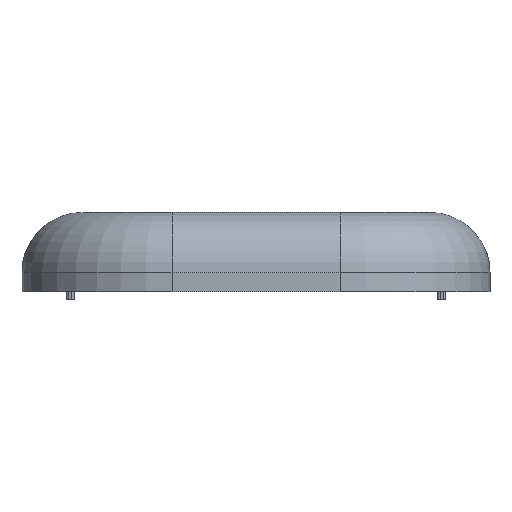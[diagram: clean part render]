
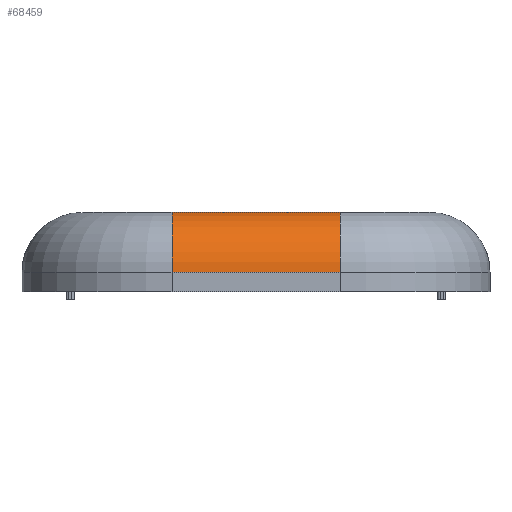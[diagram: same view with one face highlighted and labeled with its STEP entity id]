
A CAD part, front view. The second image highlights one B-rep face of the part: STEP entity #68459.
In plain terms, the highlighted cylindrical face has radius 10 mm (diameter 20 mm), a partial arc.
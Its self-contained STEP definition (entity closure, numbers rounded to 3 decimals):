
#21897 = PLANE('',#21898);
#21898 = AXIS2_PLACEMENT_3D('',#21899,#21900,#21901);
#21899 = CARTESIAN_POINT('',(0.,0.,0.));
#21900 = DIRECTION('',(0.,0.,-1.));
#21901 = DIRECTION('',(-1.,0.,0.));
#49367 = VERTEX_POINT('',#49368);
#49368 = CARTESIAN_POINT('',(14.,-65.,0.));
#49383 = TOROIDAL_SURFACE('',#49384,15.,10.);
#49384 = AXIS2_PLACEMENT_3D('',#49385,#49386,#49387);
#49385 = CARTESIAN_POINT('',(14.,-50.,-10.));
#49386 = DIRECTION('',(0.,0.,-1.));
#49387 = DIRECTION('',(-1.,0.,0.));
#49395 = EDGE_CURVE('',#49367,#49396,#49398,.T.);
#49396 = VERTEX_POINT('',#49397);
#49397 = CARTESIAN_POINT('',(-14.,-65.,0.));
#49398 = SURFACE_CURVE('',#49399,(#49403,#49410),.PCURVE_S1.);
#49399 = LINE('',#49400,#49401);
#49400 = CARTESIAN_POINT('',(7.,-65.,0.));
#49401 = VECTOR('',#49402,1.);
#49402 = DIRECTION('',(-1.,0.,0.));
#49403 = PCURVE('',#21897,#49404);
#49404 = DEFINITIONAL_REPRESENTATION('',(#49405),#49409);
#49405 = LINE('',#49406,#49407);
#49406 = CARTESIAN_POINT('',(-7.,-65.));
#49407 = VECTOR('',#49408,1.);
#49408 = DIRECTION('',(1.,0.));
#49409 = ( GEOMETRIC_REPRESENTATION_CONTEXT(2) 
PARAMETRIC_REPRESENTATION_CONTEXT() REPRESENTATION_CONTEXT('2D SPACE',''
  ) );
#49410 = PCURVE('',#49411,#49416);
#49411 = CYLINDRICAL_SURFACE('',#49412,10.);
#49412 = AXIS2_PLACEMENT_3D('',#49413,#49414,#49415);
#49413 = CARTESIAN_POINT('',(7.,-65.,-10.));
#49414 = DIRECTION('',(-1.,0.,0.));
#49415 = DIRECTION('',(0.,-0.707,0.707));
#49416 = DEFINITIONAL_REPRESENTATION('',(#49417),#49421);
#49417 = LINE('',#49418,#49419);
#49418 = CARTESIAN_POINT('',(7.069,0.));
#49419 = VECTOR('',#49420,1.);
#49420 = DIRECTION('',(0.,1.));
#49421 = ( GEOMETRIC_REPRESENTATION_CONTEXT(2) 
PARAMETRIC_REPRESENTATION_CONTEXT() REPRESENTATION_CONTEXT('2D SPACE',''
  ) );
#49440 = TOROIDAL_SURFACE('',#49441,15.,10.);
#49441 = AXIS2_PLACEMENT_3D('',#49442,#49443,#49444);
#49442 = CARTESIAN_POINT('',(-14.,-50.,-10.));
#49443 = DIRECTION('',(0.,0.,-1.));
#49444 = DIRECTION('',(-1.,0.,0.));
#68407 = EDGE_CURVE('',#49367,#68408,#68410,.T.);
#68408 = VERTEX_POINT('',#68409);
#68409 = CARTESIAN_POINT('',(14.,-75.,-10.));
#68410 = SURFACE_CURVE('',#68411,(#68416,#68423),.PCURVE_S1.);
#68411 = CIRCLE('',#68412,10.);
#68412 = AXIS2_PLACEMENT_3D('',#68413,#68414,#68415);
#68413 = CARTESIAN_POINT('',(14.,-65.,-10.));
#68414 = DIRECTION('',(1.,0.,-0.));
#68415 = DIRECTION('',(0.,0.,1.));
#68416 = PCURVE('',#49383,#68417);
#68417 = DEFINITIONAL_REPRESENTATION('',(#68418),#68422);
#68418 = LINE('',#68419,#68420);
#68419 = CARTESIAN_POINT('',(4.712,4.712));
#68420 = VECTOR('',#68421,1.);
#68421 = DIRECTION('',(0.,1.));
#68422 = ( GEOMETRIC_REPRESENTATION_CONTEXT(2) 
PARAMETRIC_REPRESENTATION_CONTEXT() REPRESENTATION_CONTEXT('2D SPACE',''
  ) );
#68423 = PCURVE('',#49411,#68424);
#68424 = DEFINITIONAL_REPRESENTATION('',(#68425),#68429);
#68425 = LINE('',#68426,#68427);
#68426 = CARTESIAN_POINT('',(7.069,-7.));
#68427 = VECTOR('',#68428,1.);
#68428 = DIRECTION('',(-1.,0.));
#68429 = ( GEOMETRIC_REPRESENTATION_CONTEXT(2) 
PARAMETRIC_REPRESENTATION_CONTEXT() REPRESENTATION_CONTEXT('2D SPACE',''
  ) );
#68459 = ADVANCED_FACE('',(#68460),#49411,.T.);
#68460 = FACE_BOUND('',#68461,.T.);
#68461 = EDGE_LOOP('',(#68462,#68486,#68512,#68513));
#68462 = ORIENTED_EDGE('',*,*,#68463,.T.);
#68463 = EDGE_CURVE('',#49396,#68464,#68466,.T.);
#68464 = VERTEX_POINT('',#68465);
#68465 = CARTESIAN_POINT('',(-14.,-75.,-10.));
#68466 = SURFACE_CURVE('',#68467,(#68472,#68479),.PCURVE_S1.);
#68467 = CIRCLE('',#68468,10.);
#68468 = AXIS2_PLACEMENT_3D('',#68469,#68470,#68471);
#68469 = CARTESIAN_POINT('',(-14.,-65.,-10.));
#68470 = DIRECTION('',(1.,0.,0.));
#68471 = DIRECTION('',(0.,0.,1.));
#68472 = PCURVE('',#49411,#68473);
#68473 = DEFINITIONAL_REPRESENTATION('',(#68474),#68478);
#68474 = LINE('',#68475,#68476);
#68475 = CARTESIAN_POINT('',(7.069,21.));
#68476 = VECTOR('',#68477,1.);
#68477 = DIRECTION('',(-1.,0.));
#68478 = ( GEOMETRIC_REPRESENTATION_CONTEXT(2) 
PARAMETRIC_REPRESENTATION_CONTEXT() REPRESENTATION_CONTEXT('2D SPACE',''
  ) );
#68479 = PCURVE('',#49440,#68480);
#68480 = DEFINITIONAL_REPRESENTATION('',(#68481),#68485);
#68481 = LINE('',#68482,#68483);
#68482 = CARTESIAN_POINT('',(4.712,4.712));
#68483 = VECTOR('',#68484,1.);
#68484 = DIRECTION('',(0.,1.));
#68485 = ( GEOMETRIC_REPRESENTATION_CONTEXT(2) 
PARAMETRIC_REPRESENTATION_CONTEXT() REPRESENTATION_CONTEXT('2D SPACE',''
  ) );
#68486 = ORIENTED_EDGE('',*,*,#68487,.T.);
#68487 = EDGE_CURVE('',#68464,#68408,#68488,.T.);
#68488 = SURFACE_CURVE('',#68489,(#68493,#68500),.PCURVE_S1.);
#68489 = LINE('',#68490,#68491);
#68490 = CARTESIAN_POINT('',(7.,-75.,-10.));
#68491 = VECTOR('',#68492,1.);
#68492 = DIRECTION('',(1.,0.,0.));
#68493 = PCURVE('',#49411,#68494);
#68494 = DEFINITIONAL_REPRESENTATION('',(#68495),#68499);
#68495 = LINE('',#68496,#68497);
#68496 = CARTESIAN_POINT('',(5.498,0.));
#68497 = VECTOR('',#68498,1.);
#68498 = DIRECTION('',(0.,-1.));
#68499 = ( GEOMETRIC_REPRESENTATION_CONTEXT(2) 
PARAMETRIC_REPRESENTATION_CONTEXT() REPRESENTATION_CONTEXT('2D SPACE',''
  ) );
#68500 = PCURVE('',#68501,#68506);
#68501 = PLANE('',#68502);
#68502 = AXIS2_PLACEMENT_3D('',#68503,#68504,#68505);
#68503 = CARTESIAN_POINT('',(14.,-75.,0.));
#68504 = DIRECTION('',(0.,-1.,0.));
#68505 = DIRECTION('',(-1.,0.,0.));
#68506 = DEFINITIONAL_REPRESENTATION('',(#68507),#68511);
#68507 = LINE('',#68508,#68509);
#68508 = CARTESIAN_POINT('',(7.,10.));
#68509 = VECTOR('',#68510,1.);
#68510 = DIRECTION('',(-1.,-0.));
#68511 = ( GEOMETRIC_REPRESENTATION_CONTEXT(2) 
PARAMETRIC_REPRESENTATION_CONTEXT() REPRESENTATION_CONTEXT('2D SPACE',''
  ) );
#68512 = ORIENTED_EDGE('',*,*,#68407,.F.);
#68513 = ORIENTED_EDGE('',*,*,#49395,.T.);
